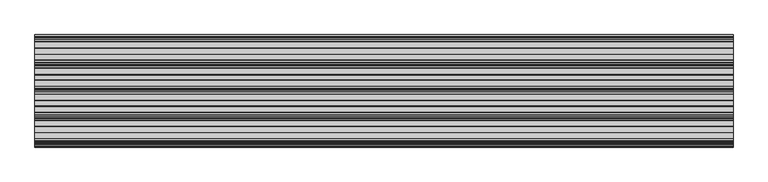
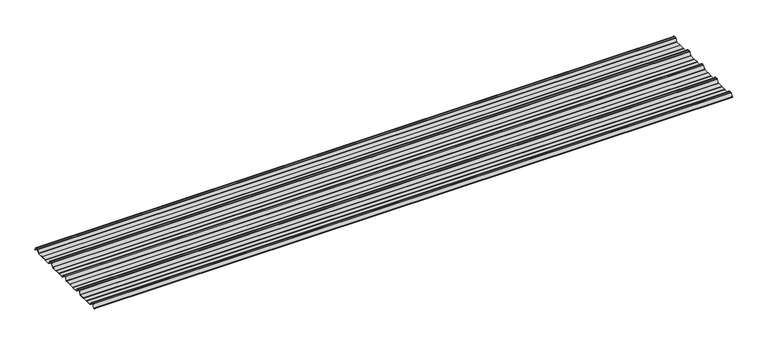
"""IFC4 building model written with IfcOpenShell, lengths in millimetres: beam geometry, 3D_Metalcraft T-Rib : 3D_Metalcraft T-Rib."""

import ifcopenshell
import ifcopenshell.guid

model = None  # the IFC model being written
_history = None  # IfcOwnerHistory: only IFC2X3 demands one
_inside = {}  # id of a spatial element -> (the spatial element, [elements in it])
_under = {}  # id of a project, library or spatial element -> (it, [spatial elements below it])
_declared = {}  # id of a project -> (the project, [libraries it declares])
_typed = {}  # id of a type object -> (the type object, [elements of that type])
_made_of = {}  # id of a material, layer set ... -> (it, [elements and type objects made of it])


def new_model(schema):
    """Start an empty IFC model of exactly this schema.

    Asked for "IFC4X3", IfcOpenShell would pick the latest addendum, in which some entities
    have other attributes; the version numbers below select the first issue.
    IFC2X3 requires an IfcOwnerHistory on every rooted entity: one is made here for all.
    """
    global model, _history
    if schema == "IFC4X3":
        model = ifcopenshell.file(schema_version=(4, 3, 0, 0))
    else:
        model = ifcopenshell.file(schema=schema)
    _inside.clear()
    _under.clear()
    _declared.clear()
    _typed.clear()
    _made_of.clear()
    _history = None
    if model.schema == "IFC2X3":
        org = make("IfcOrganization", Name="unknown")
        user = make(
            "IfcPersonAndOrganization",
            ThePerson=make("IfcPerson", FamilyName="unknown"),
            TheOrganization=org,
        )
        app = make(
            "IfcApplication",
            ApplicationDeveloper=org,
            Version="unknown",
            ApplicationFullName="unknown",
            ApplicationIdentifier="unknown",
        )
        _history = make(
            "IfcOwnerHistory",
            OwningUser=user,
            OwningApplication=app,
            ChangeAction="ADDED",
            CreationDate=0,
        )
    return model


def make(cls, **values):
    """One entity of the class cls with the attributes given. An attribute that is None is left unset."""
    return model.create_entity(
        cls, **{name: value for name, value in values.items() if value is not None}
    )


def rooted(cls, **values):
    """An entity with a GlobalId (a new one), such as an element, a storey or a relation."""
    return make(cls, GlobalId=ifcopenshell.guid.new(), OwnerHistory=_history, **values)


def si_unit(unit_type, name, prefix=None):
    """IfcSIUnit, for example si_unit("LENGTHUNIT", "METRE", prefix="MILLI")."""
    return make("IfcSIUnit", UnitType=unit_type, Prefix=prefix, Name=name)


def assignment(units):
    """IfcUnitAssignment: the units of a project."""
    return None if units is None else make("IfcUnitAssignment", Units=units)


def point(xyz):
    """IfcCartesianPoint."""
    return None if xyz is None else make("IfcCartesianPoint", Coordinates=xyz)


def direction(xyz):
    """IfcDirection."""
    return None if xyz is None else make("IfcDirection", DirectionRatios=xyz)


def frame(location, z_axis=None, x_axis=None):
    """IfcAxis2Placement3D, a coordinate frame: its origin and axes. An axis left out is left unset."""
    return make(
        "IfcAxis2Placement3D",
        Location=point(location),
        Axis=direction(z_axis),
        RefDirection=direction(x_axis),
    )


def frame_2d(location, x_axis=None):
    """IfcAxis2Placement2D, a coordinate frame in the plane: its origin and x axis."""
    return make(
        "IfcAxis2Placement2D", Location=point(location), RefDirection=direction(x_axis)
    )


def origin():
    """The frame at (0, 0, 0) with its axes left unset."""
    return frame((0.0, 0.0, 0.0))


def place(relative_to, where):
    """IfcLocalPlacement: puts the frame where relative to a parent placement (None: the world)."""
    return make(
        "IfcLocalPlacement", PlacementRelTo=relative_to, RelativePlacement=where
    )


def context(
    kind, dimensions, precision=None, world=None, true_north=None, identifier=None
):
    """IfcGeometricRepresentationContext, for example the 3D "Model" context."""
    return make(
        "IfcGeometricRepresentationContext",
        ContextIdentifier=identifier,
        ContextType=kind,
        CoordinateSpaceDimension=dimensions,
        Precision=precision,
        WorldCoordinateSystem=world,
        TrueNorth=true_north,
    )


def project(units=None, contexts=None):
    """IfcProject with its units and contexts."""
    return rooted(
        "IfcProject",
        Name="project",
        RepresentationContexts=contexts,
        UnitsInContext=assignment(units),
    )


def spatial(cls, under=None, at=None, **own):
    """A site, building, storey or space (cls), placed at a placement, below another one or the project."""
    s = rooted(cls, ObjectPlacement=at, **own)
    if under is not None:
        _under.setdefault(under.id(), (under, []))[1].append(s)
    return s


def polyline(points):
    """IfcPolyline through the points."""
    return make("IfcPolyline", Points=[point(p) for p in points])


def circle_curve(where, radius):
    """IfcCircle in the frame where."""
    return make("IfcCircle", Position=where, Radius=radius)


def trimmed(basis, trim1, trim2, sense, master):
    """IfcTrimmedCurve: the piece of a basis curve between two trims."""
    return make(
        "IfcTrimmedCurve",
        BasisCurve=basis,
        Trim1=trim1,
        Trim2=trim2,
        SenseAgreement=sense,
        MasterRepresentation=master,
    )


def segment(curve, same_sense, transition):
    """IfcCompositeCurveSegment."""
    return make(
        "IfcCompositeCurveSegment",
        Transition=transition,
        SameSense=same_sense,
        ParentCurve=curve,
    )


def composite_curve(segments, self_intersect=None):
    """IfcCompositeCurve: segments joined end to end."""
    return make("IfcCompositeCurve", Segments=segments, SelfIntersect=self_intersect)


def outline(outer, holes=None, kind="AREA"):
    """IfcArbitraryClosedProfileDef: a profile drawn as a closed curve; with holes, ...WithVoids."""
    if holes is None:
        return make("IfcArbitraryClosedProfileDef", ProfileType=kind, OuterCurve=outer)
    return make(
        "IfcArbitraryProfileDefWithVoids",
        ProfileType=kind,
        OuterCurve=outer,
        InnerCurves=holes,
    )


def extrude(swept, where, along, depth):
    """IfcExtrudedAreaSolid: the profile swept, set in the frame where, extruded along a direction by depth."""
    return make(
        "IfcExtrudedAreaSolid",
        SweptArea=swept,
        Position=where,
        ExtrudedDirection=direction(along),
        Depth=depth,
    )


def shape(context_of_items, identifier, shape_type, items):
    """IfcShapeRepresentation: the items that make up one representation, for example the "Body"."""
    return make(
        "IfcShapeRepresentation",
        ContextOfItems=context_of_items,
        RepresentationIdentifier=identifier,
        RepresentationType=shape_type,
        Items=items,
    )


def source(mapping_origin, context_of_items, identifier, shape_type, items):
    """IfcRepresentationMap: a shape defined once, which mapped items show again and again."""
    return make(
        "IfcRepresentationMap",
        MappingOrigin=mapping_origin,
        MappedRepresentation=shape(context_of_items, identifier, shape_type, items),
    )


def transform(
    local_origin,
    x_axis=None,
    y_axis=None,
    z_axis=None,
    scale=None,
    scale2=None,
    scale3=None,
    uniform=True,
):
    """IfcCartesianTransformationOperator3D, or its non-uniform kind. x_axis, y_axis, z_axis: its Axis1, 2, 3."""
    if uniform:
        return make(
            "IfcCartesianTransformationOperator3D",
            Axis1=direction(x_axis),
            Axis2=direction(y_axis),
            LocalOrigin=point(local_origin),
            Scale=scale,
            Axis3=direction(z_axis),
        )
    return make(
        "IfcCartesianTransformationOperator3DnonUniform",
        Axis1=direction(x_axis),
        Axis2=direction(y_axis),
        LocalOrigin=point(local_origin),
        Scale=scale,
        Axis3=direction(z_axis),
        Scale2=scale2,
        Scale3=scale3,
    )


def mapped(mapping_source, mapping_target):
    """IfcMappedItem: shows the shape of a source again, moved by a transform."""
    return make(
        "IfcMappedItem", MappingSource=mapping_source, MappingTarget=mapping_target
    )


def made_of(thing, what):
    """Note that an element or type object is made of a material, layer set ...; save() writes the relation."""
    if what is not None:
        _made_of.setdefault(what.id(), (what, []))[1].append(thing)
    return thing


def element(
    cls,
    number,
    at=None,
    inside=None,
    cuts=None,
    type_object=None,
    material=None,
    context=None,
    identifier="Body",
    shape_type=None,
    held_by="IfcProductDefinitionShape",
    body=None,
    shapes=None,
    **own,
):
    """One element of the class cls, such as IfcWall. Its Tag is "e" and its number.

    at: its placement. inside: the storey or other place that contains it. cuts: it is an
    opening in that element (IfcRelVoidsElement). A single representation is given by context,
    identifier, shape_type and body (its items); several are given by shapes. held_by: the class
    of the entity that holds the representations. save() writes the other relations.
    """
    e = rooted(cls, Tag="e%d" % number, ObjectPlacement=at, **own)
    if body is not None:
        shapes = [shape(context, identifier, shape_type, body)]
    if shapes is not None:
        e.Representation = make(held_by, Representations=shapes)
    if inside is not None:
        _inside.setdefault(inside.id(), (inside, []))[1].append(e)
    if cuts is not None:
        rooted(
            "IfcRelVoidsElement", RelatingBuildingElement=cuts, RelatedOpeningElement=e
        )
    if type_object is not None:
        _typed.setdefault(type_object.id(), (type_object, []))[1].append(e)
    return made_of(e, material)


def aggregate(whole, parts):
    """IfcRelAggregates: a whole, such as a stair, and the parts it consists of."""
    return rooted("IfcRelAggregates", RelatingObject=whole, RelatedObjects=parts)


def save(model, path):
    """Write the relations noted so far, then the file.

    IfcRelAggregates (storeys below a building ...), IfcRelContainedInSpatialStructure (elements
    in a storey), IfcRelDefinesByType, IfcRelAssociatesMaterial and IfcRelDeclares: one each for
    every whole, place, type object, material and project.
    """
    for whole, parts in _under.values():
        aggregate(whole, parts)
    for where, things in _inside.values():
        rooted(
            "IfcRelContainedInSpatialStructure",
            RelatedElements=things,
            RelatingStructure=where,
        )
    for kind, things in _typed.values():
        rooted("IfcRelDefinesByType", RelatedObjects=things, RelatingType=kind)
    for what, things in _made_of.values():
        rooted("IfcRelAssociatesMaterial", RelatedObjects=things, RelatingMaterial=what)
    for by, libraries in _declared.values():
        rooted("IfcRelDeclares", RelatingContext=by, RelatedDefinitions=libraries)
    model.write(path)


def beam_005bef61(model_context):
    return source(origin(), model_context, "Body", "SweptSolid", [
        extrude(outline(composite_curve([segment(polyline([(-72.2377386, -25.7896475), (-76.3538889, -24.06703), (-113.6461111, -24.06703), (-117.7622614, -25.7896475), (-160.0, -25.7896475)]), True, "CONTINUOUS"), segment(trimmed(circle_curve(frame_2d((-159.2196788, -21.4509358)), 4.4083239), [point((-160.0, -25.7896475))], [point((-162.8209858, -23.9933574))], False, "CARTESIAN"), True, "CONTINUOUS"), segment(polyline([(-162.8209858, -23.9933574), (-178.3273257, -0.5940367)]), True, "CONTINUOUS"), segment(trimmed(circle_curve(frame_2d((-180.8929255, -2.3855242)), 3.1291741), [point((-178.3273257, -0.5940367))], [point((-179.9028031, 0.582874))], True, "CARTESIAN"), True, "CONTINUOUS"), segment(trimmed(circle_curve(frame_2d((-189.9940851, -29.8891871)), 32.0995402), [point((-179.9028031, 0.582874))], [point((-190.0, 2.2103525))], True, "CARTESIAN"), True, "CONTINUOUS"), segment(trimmed(circle_curve(frame_2d((-190.0059149, -29.8891871)), 32.0995402), [point((-190.0, 2.2103525))], [point((-200.0971969, 0.582874))], True, "CARTESIAN"), True, "CONTINUOUS"), segment(trimmed(circle_curve(frame_2d((-199.1070745, -2.3855242)), 3.1291741), [point((-200.0971969, 0.582874))], [point((-201.6726743, -0.5940367))], True, "CARTESIAN"), True, "CONTINUOUS"), segment(polyline([(-201.6726743, -0.5940367), (-217.1790142, -23.9933574)]), True, "CONTINUOUS"), segment(trimmed(circle_curve(frame_2d((-220.7803212, -21.4509358)), 4.4083239), [point((-217.1790142, -23.9933574))], [point((-220.0, -25.7896475))], False, "CARTESIAN"), True, "CONTINUOUS"), segment(polyline([(-220.0, -25.7896475), (-262.2377386, -25.7896475), (-266.3538889, -24.06703), (-303.6461111, -24.06703), (-307.7622614, -25.7896475), (-350.0, -25.7896475)]), True, "CONTINUOUS"), segment(trimmed(circle_curve(frame_2d((-349.2196788, -21.4509358)), 4.4083239), [point((-350.0, -25.7896475))], [point((-352.8209858, -23.9933574))], False, "CARTESIAN"), True, "CONTINUOUS"), segment(polyline([(-352.8209858, -23.9933574), (-368.3273257, -0.5940367)]), True, "CONTINUOUS"), segment(trimmed(circle_curve(frame_2d((-370.8929255, -2.3855242)), 3.1291741), [point((-368.3273257, -0.5940367))], [point((-369.9028031, 0.582874))], True, "CARTESIAN"), True, "CONTINUOUS"), segment(trimmed(circle_curve(frame_2d((-379.9940851, -29.8891871)), 32.0995402), [point((-369.9028031, 0.582874))], [point((-380.0, 2.2103525))], True, "CARTESIAN"), True, "CONTINUOUS"), segment(trimmed(circle_curve(frame_2d((-380.0059149, -29.8891871)), 32.0995402), [point((-380.0, 2.2103525))], [point((-390.0971969, 0.582874))], True, "CARTESIAN"), True, "CONTINUOUS"), segment(trimmed(circle_curve(frame_2d((-389.1070745, -2.3855242)), 3.1291741), [point((-390.0971969, 0.582874))], [point((-391.6726743, -0.5940367))], True, "CARTESIAN"), True, "CONTINUOUS"), segment(polyline([(-391.6726743, -0.5940367), (-407.1790142, -23.9933574)]), True, "CONTINUOUS"), segment(trimmed(circle_curve(frame_2d((-410.7803212, -21.4509358)), 4.4083239), [point((-407.1790142, -23.9933574))], [point((-410.0, -25.7896475))], False, "CARTESIAN"), True, "CONTINUOUS"), segment(polyline([(-410.0, -25.7896475), (-452.2377387, -25.7896475), (-456.3538889, -24.06703), (-493.6461111, -24.06703), (-497.7622614, -25.7896475), (-540.0, -25.7896475)]), True, "CONTINUOUS"), segment(trimmed(circle_curve(frame_2d((-539.2196788, -21.4509358)), 4.4083239), [point((-540.0, -25.7896475))], [point((-542.8209858, -23.9933574))], False, "CARTESIAN"), True, "CONTINUOUS"), segment(polyline([(-542.8209858, -23.9933574), (-558.3273257, -0.5940367)]), True, "CONTINUOUS"), segment(trimmed(circle_curve(frame_2d((-560.8929255, -2.3855242)), 3.1291741), [point((-558.3273257, -0.5940367))], [point((-559.9028031, 0.582874))], True, "CARTESIAN"), True, "CONTINUOUS"), segment(trimmed(circle_curve(frame_2d((-569.9940851, -29.8891871)), 32.0995402), [point((-559.9028031, 0.582874))], [point((-570.0, 2.2103525))], True, "CARTESIAN"), True, "CONTINUOUS"), segment(trimmed(circle_curve(frame_2d((-570.0059149, -29.8891871)), 32.0995402), [point((-570.0, 2.2103525))], [point((-580.0971969, 0.582874))], True, "CARTESIAN"), True, "CONTINUOUS"), segment(trimmed(circle_curve(frame_2d((-579.1070745, -2.3855242)), 3.1291741), [point((-580.0971969, 0.582874))], [point((-581.6726743, -0.5940367))], True, "CARTESIAN"), True, "CONTINUOUS"), segment(polyline([(-581.6726743, -0.5940367), (-597.1790142, -23.9933574)]), True, "CONTINUOUS"), segment(trimmed(circle_curve(frame_2d((-600.7803212, -21.4509358)), 4.4083239), [point((-597.1790142, -23.9933574))], [point((-600.0, -25.7896475))], False, "CARTESIAN"), True, "CONTINUOUS"), segment(polyline([(-600.0, -25.7896475), (-642.2377387, -25.7896475), (-646.3538889, -24.06703), (-683.6461111, -24.06703), (-687.7622614, -25.7896475), (-730.0, -25.7896475)]), True, "CONTINUOUS"), segment(trimmed(circle_curve(frame_2d((-729.2196788, -21.4509358)), 4.4083239), [point((-730.0, -25.7896475))], [point((-732.8209858, -23.9933574))], False, "CARTESIAN"), True, "CONTINUOUS"), segment(polyline([(-732.8209858, -23.9933574), (-748.3273257, -0.5940367)]), True, "CONTINUOUS"), segment(trimmed(circle_curve(frame_2d((-750.8929255, -2.3855242)), 3.1291741), [point((-748.3273257, -0.5940367))], [point((-749.9028031, 0.582874))], True, "CARTESIAN"), True, "CONTINUOUS"), segment(trimmed(circle_curve(frame_2d((-759.9940851, -29.8891871)), 32.0995402), [point((-749.9028031, 0.582874))], [point((-760.0, 2.2103525))], True, "CARTESIAN"), True, "CONTINUOUS"), segment(trimmed(circle_curve(frame_2d((-760.0059149, -29.8891871)), 32.0995402), [point((-760.0, 2.2103525))], [point((-770.0971969, 0.582874))], True, "CARTESIAN"), True, "CONTINUOUS"), segment(trimmed(circle_curve(frame_2d((-769.1070745, -2.3855242)), 3.1291741), [point((-770.0971969, 0.582874))], [point((-771.6726743, -0.5940367))], True, "CARTESIAN"), True, "CONTINUOUS"), segment(polyline([(-771.6726743, -0.5940367), (-785.8536479, -21.993358)]), True, "CONTINUOUS"), segment(trimmed(circle_curve(frame_2d((-789.4549545, -19.4509358)), 4.4083239), [point((-785.8536479, -21.993358))], [point((-788.6746333, -23.7896475))], False, "CARTESIAN"), True, "CONTINUOUS"), segment(polyline([(-788.6746333, -23.7896475), (-792.3232685, -23.7896475)]), True, "CONTINUOUS"), segment(trimmed(circle_curve(frame_2d((-792.3232685, -23.2896475)), 0.5), [point((-792.3232685, -23.7896475))], [point((-792.3232685, -22.7896475))], False, "CARTESIAN"), True, "CONTINUOUS"), segment(polyline([(-792.3232685, -22.7896475), (-788.769625, -22.7896475)]), True, "CONTINUOUS"), segment(trimmed(circle_curve(frame_2d((-789.4549545, -19.4509358)), 3.4083239), [point((-788.769625, -22.7896475))], [point((-786.6785605, -21.42788))], True, "CARTESIAN"), True, "CONTINUOUS"), segment(polyline([(-786.6785605, -21.42788), (-772.5, -0.0322)]), True, "CONTINUOUS"), segment(trimmed(circle_curve(frame_2d((-769.1070745, -2.3855242)), 4.1291741), [point((-772.5, -0.0322))], [point((-770.41253, 1.5318556))], False, "CARTESIAN"), True, "CONTINUOUS"), segment(trimmed(circle_curve(frame_2d((-760.0059149, -29.8891871)), 33.0995402), [point((-770.41253, 1.5318556))], [point((-760.0, 3.2103525))], False, "CARTESIAN"), True, "CONTINUOUS"), segment(trimmed(circle_curve(frame_2d((-759.9940851, -29.8891871)), 33.0995402), [point((-760.0, 3.2103525))], [point((-749.58747, 1.5318556))], False, "CARTESIAN"), True, "CONTINUOUS"), segment(trimmed(circle_curve(frame_2d((-750.8929255, -2.3855242)), 4.1291741), [point((-749.58747, 1.5318556))], [point((-747.5, -0.0322))], False, "CARTESIAN"), True, "CONTINUOUS"), segment(polyline([(-747.5, -0.0322), (-732.1223092, -23.2373872)]), True, "CONTINUOUS"), segment(trimmed(circle_curve(frame_2d((-729.2196788, -21.4509358)), 3.4083239), [point((-732.1223092, -23.2373872))], [point((-729.9050084, -24.7896475))], True, "CARTESIAN"), True, "CONTINUOUS"), segment(polyline([(-729.9050084, -24.7896475), (-687.9630742, -24.7896475), (-683.846924, -23.06703), (-646.1530761, -23.06703), (-642.0369258, -24.7896475), (-600.0949917, -24.7896475)]), True, "CONTINUOUS"), segment(trimmed(circle_curve(frame_2d((-600.7803212, -21.4509358)), 3.4083239), [point((-600.0949917, -24.7896475))], [point((-597.8776908, -23.2373872))], True, "CARTESIAN"), True, "CONTINUOUS"), segment(polyline([(-597.8776908, -23.2373872), (-582.5, -0.0322)]), True, "CONTINUOUS"), segment(trimmed(circle_curve(frame_2d((-579.1070745, -2.3855242)), 4.1291741), [point((-582.5, -0.0322))], [point((-580.41253, 1.5318556))], False, "CARTESIAN"), True, "CONTINUOUS"), segment(trimmed(circle_curve(frame_2d((-570.0059149, -29.8891871)), 33.0995402), [point((-580.41253, 1.5318556))], [point((-570.0, 3.2103525))], False, "CARTESIAN"), True, "CONTINUOUS"), segment(trimmed(circle_curve(frame_2d((-569.9940851, -29.8891871)), 33.0995402), [point((-570.0, 3.2103525))], [point((-559.58747, 1.5318556))], False, "CARTESIAN"), True, "CONTINUOUS"), segment(trimmed(circle_curve(frame_2d((-560.8929255, -2.3855242)), 4.1291741), [point((-559.58747, 1.5318556))], [point((-557.5, -0.0322))], False, "CARTESIAN"), True, "CONTINUOUS"), segment(polyline([(-557.5, -0.0322), (-542.1223092, -23.2373872)]), True, "CONTINUOUS"), segment(trimmed(circle_curve(frame_2d((-539.2196788, -21.4509358)), 3.4083239), [point((-542.1223092, -23.2373872))], [point((-539.9050084, -24.7896475))], True, "CARTESIAN"), True, "CONTINUOUS"), segment(polyline([(-539.9050084, -24.7896475), (-497.9630742, -24.7896475), (-493.846924, -23.06703), (-456.1530761, -23.06703), (-452.0369258, -24.7896475), (-410.0949917, -24.7896475)]), True, "CONTINUOUS"), segment(trimmed(circle_curve(frame_2d((-410.7803212, -21.4509358)), 3.4083239), [point((-410.0949917, -24.7896475))], [point((-407.8776908, -23.2373872))], True, "CARTESIAN"), True, "CONTINUOUS"), segment(polyline([(-407.8776908, -23.2373872), (-392.5, -0.0322)]), True, "CONTINUOUS"), segment(trimmed(circle_curve(frame_2d((-389.1070745, -2.3855242)), 4.1291741), [point((-392.5, -0.0322))], [point((-390.41253, 1.5318556))], False, "CARTESIAN"), True, "CONTINUOUS"), segment(trimmed(circle_curve(frame_2d((-380.0059149, -29.8891871)), 33.0995402), [point((-390.41253, 1.5318556))], [point((-380.0, 3.2103525))], False, "CARTESIAN"), True, "CONTINUOUS"), segment(trimmed(circle_curve(frame_2d((-379.9940851, -29.8891871)), 33.0995402), [point((-380.0, 3.2103525))], [point((-369.58747, 1.5318556))], False, "CARTESIAN"), True, "CONTINUOUS"), segment(trimmed(circle_curve(frame_2d((-370.8929255, -2.3855242)), 4.1291741), [point((-369.58747, 1.5318556))], [point((-367.5, -0.0322))], False, "CARTESIAN"), True, "CONTINUOUS"), segment(polyline([(-367.5, -0.0322), (-352.1223092, -23.2373872)]), True, "CONTINUOUS"), segment(trimmed(circle_curve(frame_2d((-349.2196788, -21.4509358)), 3.4083239), [point((-352.1223092, -23.2373872))], [point((-349.9050084, -24.7896475))], True, "CARTESIAN"), True, "CONTINUOUS"), segment(polyline([(-349.9050084, -24.7896475), (-307.9630742, -24.7896475), (-303.846924, -23.06703), (-266.153076, -23.06703), (-262.0369258, -24.7896475), (-220.0949917, -24.7896475)]), True, "CONTINUOUS"), segment(trimmed(circle_curve(frame_2d((-220.7803212, -21.4509358)), 3.4083239), [point((-220.0949917, -24.7896475))], [point((-217.8776908, -23.2373872))], True, "CARTESIAN"), True, "CONTINUOUS"), segment(polyline([(-217.8776908, -23.2373872), (-202.5, -0.0322)]), True, "CONTINUOUS"), segment(trimmed(circle_curve(frame_2d((-199.1070745, -2.3855242)), 4.1291741), [point((-202.5, -0.0322))], [point((-200.41253, 1.5318556))], False, "CARTESIAN"), True, "CONTINUOUS"), segment(trimmed(circle_curve(frame_2d((-190.0059149, -29.8891871)), 33.0995402), [point((-200.41253, 1.5318556))], [point((-190.0, 3.2103525))], False, "CARTESIAN"), True, "CONTINUOUS"), segment(trimmed(circle_curve(frame_2d((-189.9940851, -29.8891871)), 33.0995402), [point((-190.0, 3.2103525))], [point((-179.58747, 1.5318556))], False, "CARTESIAN"), True, "CONTINUOUS"), segment(trimmed(circle_curve(frame_2d((-180.8929255, -2.3855242)), 4.1291741), [point((-179.58747, 1.5318556))], [point((-177.5, -0.0322))], False, "CARTESIAN"), True, "CONTINUOUS"), segment(polyline([(-177.5, -0.0322), (-162.1223092, -23.2373872)]), True, "CONTINUOUS"), segment(trimmed(circle_curve(frame_2d((-159.2196788, -21.4509358)), 3.4083239), [point((-162.1223092, -23.2373872))], [point((-159.9050084, -24.7896475))], True, "CARTESIAN"), True, "CONTINUOUS"), segment(polyline([(-159.9050084, -24.7896475), (-117.9630742, -24.7896475), (-113.846924, -23.06703), (-76.153076, -23.06703), (-72.0369258, -24.7896475), (-27.6957008, -24.7896475)]), True, "CONTINUOUS"), segment(trimmed(circle_curve(frame_2d((-28.3810303, -21.4509358)), 3.4083239), [point((-27.6957008, -24.7896475))], [point((-25.6046359, -23.4278795))], True, "CARTESIAN"), True, "CONTINUOUS"), segment(polyline([(-25.6046359, -23.4278795), (-10.8390947, -1.146436)]), True, "CONTINUOUS"), segment(trimmed(circle_curve(frame_2d((-9.2408211, -2.2055853)), 1.9173616), [point((-10.8390947, -1.146436))], [point((-9.7828223, -0.366425))], False, "CARTESIAN"), True, "CONTINUOUS"), segment(trimmed(circle_curve(frame_2d((-0.0059149, -29.8891871)), 31.0995402), [point((-9.7828223, -0.366425))], [point((0.0, 1.2103525))], False, "CARTESIAN"), True, "CONTINUOUS"), segment(trimmed(circle_curve(frame_2d((0.0059149, -29.8891871)), 31.0995402), [point((0.0, 1.2103525))], [point((9.7828223, -0.366425))], False, "CARTESIAN"), True, "CONTINUOUS"), segment(trimmed(circle_curve(frame_2d((9.2408211, -2.2055853)), 1.9173616), [point((9.7828223, -0.366425))], [point((10.8390947, -1.146436))], False, "CARTESIAN"), True, "CONTINUOUS"), segment(polyline([(10.8390947, -1.146436), (25.1846039, -22.7940443)]), True, "CONTINUOUS"), segment(trimmed(circle_curve(frame_2d((24.7678141, -23.0702439)), 0.5), [point((25.1846039, -22.7940443))], [point((24.3510243, -23.3464436))], False, "CARTESIAN"), True, "CONTINUOUS"), segment(polyline([(24.3510243, -23.3464436), (10.1734573, -1.9522629)]), True, "CONTINUOUS"), segment(trimmed(circle_curve(frame_2d((8.6614124, -2.9542699)), 1.8139178), [point((10.1734573, -1.9522629))], [point((9.071517, -1.18732))], True, "CARTESIAN"), True, "CONTINUOUS"), segment(trimmed(circle_curve(frame_2d((0.0059149, -29.8891871)), 30.0995402), [point((9.071517, -1.18732))], [point((0.0, 0.2103525))], True, "CARTESIAN"), True, "CONTINUOUS"), segment(trimmed(circle_curve(frame_2d((-0.0059149, -29.8891871)), 30.0995402), [point((0.0, 0.2103525))], [point((-9.071517, -1.18732))], True, "CARTESIAN"), True, "CONTINUOUS"), segment(trimmed(circle_curve(frame_2d((-8.6614124, -2.9542699)), 1.8139178), [point((-9.071517, -1.18732))], [point((-10.1734573, -1.9522629))], True, "CARTESIAN"), True, "CONTINUOUS"), segment(polyline([(-10.1734573, -1.9522629), (-24.7797233, -23.9933574)]), True, "CONTINUOUS"), segment(trimmed(circle_curve(frame_2d((-28.3810303, -21.4509358)), 4.4083239), [point((-24.7797233, -23.9933574))], [point((-27.6007091, -25.7896475))], False, "CARTESIAN"), True, "CONTINUOUS"), segment(polyline([(-27.6007091, -25.7896475), (-72.2377386, -25.7896475)]), True, "CONTINUOUS")], self_intersect=False)), frame((-2535.0, 0.0, 0.0), z_axis=(1.0, 0.0, 0.0), x_axis=(0.0, 1.0, 0.0)), (0.0, 0.0, 1.0), 5070.0),
    ])


if __name__ == "__main__":
    model = new_model("IFC4")
    model_context = context("Model", 3, world=origin())
    ifc_project = project(units=[si_unit("LENGTHUNIT", "METRE", prefix="MILLI")], contexts=[model_context])
    site = spatial("IfcSite", under=ifc_project)
    building = spatial("IfcBuilding", under=site)
    placement = place(None, origin())
    beam_shape = beam_005bef61(model_context)
    element("IfcBeam", 1, ObjectType="3D_Metalcraft T-Rib : 3D_Metalcraft T-Rib", at=placement, inside=building, context=model_context, shape_type="MappedRepresentation", body=[
        mapped(beam_shape, transform((0.0, 0.0, 0.0), x_axis=(1.0, 0.0, 0.0), y_axis=(0.0, 1.0, 0.0), z_axis=(0.0, 0.0, 1.0))),
    ])
    save(model, "model.ifc")
